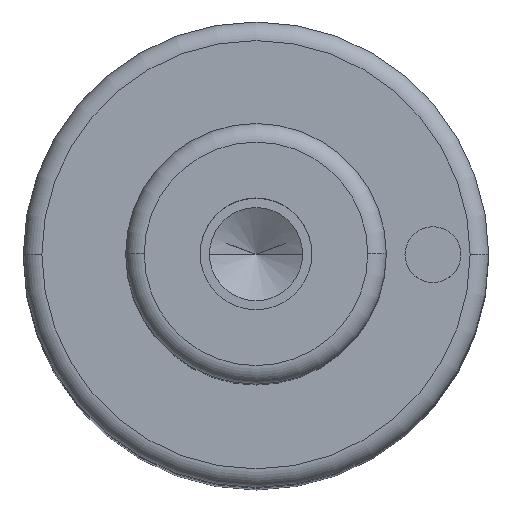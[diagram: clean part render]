
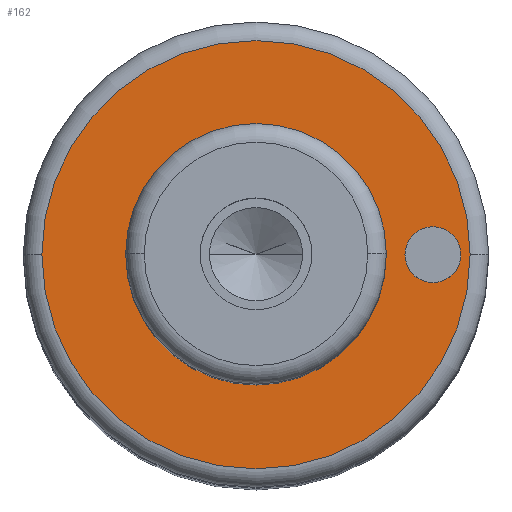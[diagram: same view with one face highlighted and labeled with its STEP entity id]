
A CAD part, top view. The second image highlights one B-rep face of the part: STEP entity #162.
In plain terms, the highlighted planar face has unit normal (0, 0, 1).
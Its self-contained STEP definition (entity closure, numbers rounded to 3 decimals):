
#105=PLANE('',#660);
#113=FACE_BOUND('',#237,.T.);
#114=FACE_BOUND('',#238,.T.);
#115=FACE_BOUND('',#239,.T.);
#162=ADVANCED_FACE('',(#113,#114,#115),#105,.T.);
#237=EDGE_LOOP('',(#393,#394));
#238=EDGE_LOOP('',(#395,#396));
#239=EDGE_LOOP('',(#397,#398));
#269=CIRCLE('',#628,7.);
#270=CIRCLE('',#630,7.);
#274=CIRCLE('',#635,11.5);
#275=CIRCLE('',#637,11.5);
#287=CIRCLE('',#658,1.5);
#288=CIRCLE('',#659,1.5);
#393=ORIENTED_EDGE('',*,*,#512,.F.);
#394=ORIENTED_EDGE('',*,*,#513,.F.);
#395=ORIENTED_EDGE('',*,*,#531,.F.);
#396=ORIENTED_EDGE('',*,*,#532,.F.);
#397=ORIENTED_EDGE('',*,*,#508,.T.);
#398=ORIENTED_EDGE('',*,*,#506,.T.);
#454=VERTEX_POINT('',#925);
#455=VERTEX_POINT('',#927);
#456=VERTEX_POINT('',#933);
#459=VERTEX_POINT('',#938);
#468=VERTEX_POINT('',#977);
#469=VERTEX_POINT('',#978);
#506=EDGE_CURVE('',#455,#454,#269,.T.);
#508=EDGE_CURVE('',#454,#455,#270,.T.);
#512=EDGE_CURVE('',#459,#456,#274,.T.);
#513=EDGE_CURVE('',#456,#459,#275,.T.);
#531=EDGE_CURVE('',#468,#469,#287,.T.);
#532=EDGE_CURVE('',#469,#468,#288,.T.);
#628=AXIS2_PLACEMENT_3D('',#926,#749,#750);
#630=AXIS2_PLACEMENT_3D('',#930,#754,#755);
#635=AXIS2_PLACEMENT_3D('',#939,#764,#765);
#637=AXIS2_PLACEMENT_3D('',#941,#768,#769);
#658=AXIS2_PLACEMENT_3D('',#976,#816,#817);
#659=AXIS2_PLACEMENT_3D('',#979,#818,#819);
#660=AXIS2_PLACEMENT_3D('',#980,#820,#821);
#749=DIRECTION('',(0.,0.,-1.));
#750=DIRECTION('',(0.,1.,0.));
#754=DIRECTION('',(0.,0.,-1.));
#755=DIRECTION('',(0.,-1.,0.));
#764=DIRECTION('',(0.,0.,-1.));
#765=DIRECTION('',(0.,1.,0.));
#768=DIRECTION('',(0.,0.,-1.));
#769=DIRECTION('',(0.,-1.,0.));
#816=DIRECTION('',(0.,0.,1.));
#817=DIRECTION('',(0.,1.,0.));
#818=DIRECTION('',(0.,0.,1.));
#819=DIRECTION('',(0.,-1.,0.));
#820=DIRECTION('',(0.,0.,1.));
#821=DIRECTION('',(0.,-1.,0.));
#925=CARTESIAN_POINT('',(-7.,0.,78.));
#926=CARTESIAN_POINT('',(0.,0.,78.));
#927=CARTESIAN_POINT('',(7.,0.,78.));
#930=CARTESIAN_POINT('',(0.,0.,78.));
#933=CARTESIAN_POINT('',(-11.5,0.,78.));
#938=CARTESIAN_POINT('',(11.5,0.,78.));
#939=CARTESIAN_POINT('',(0.,0.,78.));
#941=CARTESIAN_POINT('',(0.,0.,78.));
#976=CARTESIAN_POINT('',(9.5,0.,78.));
#977=CARTESIAN_POINT('',(8.,0.,78.));
#978=CARTESIAN_POINT('',(11.,0.,78.));
#979=CARTESIAN_POINT('',(9.5,0.,78.));
#980=CARTESIAN_POINT('',(0.,0.,78.));
